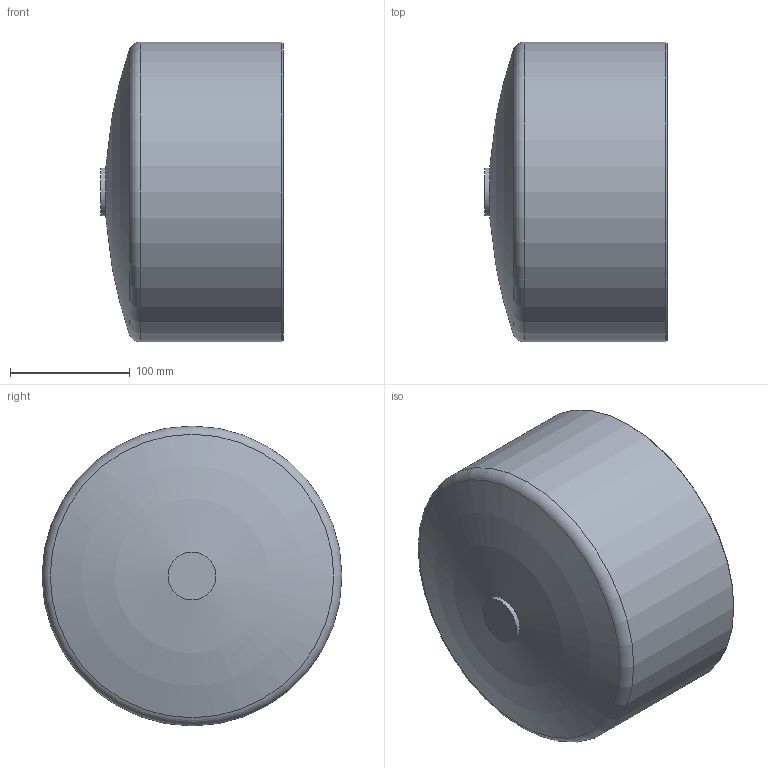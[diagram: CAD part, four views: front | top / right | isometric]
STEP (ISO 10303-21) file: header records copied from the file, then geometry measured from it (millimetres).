
FILE_DESCRIPTION(/* description */ ('Unknown'),/* implementation_level */ '2;1');
FILE_NAME(/* name */ 'CAP250B',/* time_stamp */ '2022-04-02T09:49:54+02:00',/* author */ ('Unknown'),/* organization */ ('Unknown'),/* preprocessor_version */ 'ST-DEVELOPER v18.1',/* originating_system */ 'Solid Edge',/* authorisation */ 'Unknown');
FILE_SCHEMA (('AUTOMOTIVE_DESIGN {1 0 10303 214 3 1 1}'));
Length unit declared in the file: millimetre
Products named in the file (1): CAP250B
Bounding box: 152 x 250 x 250 mm (x, y, z)
Volume: 1939476.7 mm3; surface area: 278966.1 mm2
Topology: 1 solids, 1 shells, 11 faces, 19 edges, 11 vertices
Faces by surface type: torus 4, plane 3, cylinder 3, cone 1
Full cylindrical faces by diameter (mm): 40 x1, 220.4 x1, 250 x1
Entity records: 244 total; most frequent: DIRECTION 44, CARTESIAN_POINT 32, AXIS2_PLACEMENT_3D 22, ORIENTED_EDGE 20, EDGE_LOOP 20, FACE_BOUND 20, ADVANCED_FACE 11, EDGE_CURVE 10
